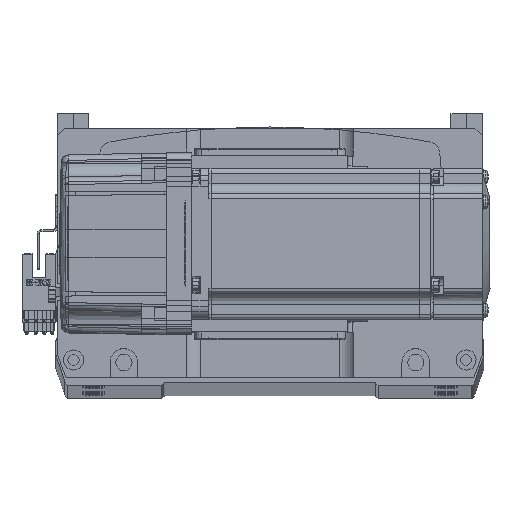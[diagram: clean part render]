
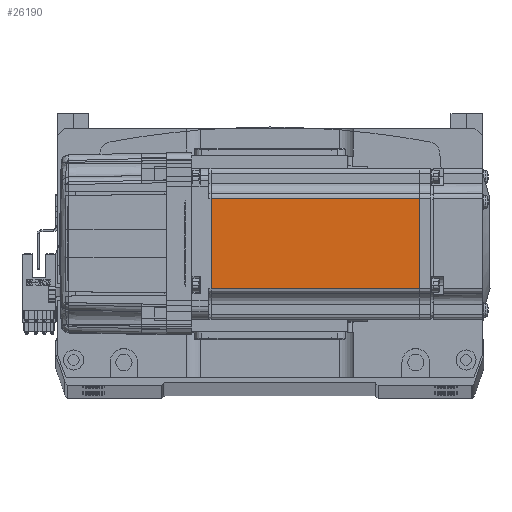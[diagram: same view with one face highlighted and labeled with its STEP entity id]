
A CAD part, top view. The second image highlights one B-rep face of the part: STEP entity #26190.
In plain terms, the highlighted planar face has unit normal (0, 0, 1) as drawn and (0, -1, 0) by its records, which use the part's own axes.
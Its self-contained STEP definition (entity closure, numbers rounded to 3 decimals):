
#3116 = VERTEX_POINT ( 'NONE', #69018 ) ;
#3796 = PLANE ( 'NONE',  #66479 ) ;
#3926 = VECTOR ( 'NONE', #60399, 1000. ) ;
#3994 = VERTEX_POINT ( 'NONE', #27102 ) ;
#5474 = LINE ( 'NONE', #55560, #65385 ) ;
#6067 = LINE ( 'NONE', #30872, #7747 ) ;
#7747 = VECTOR ( 'NONE', #63281, 1000. ) ;
#9258 = DIRECTION ( 'NONE',  ( 0., -1., 0. ) ) ;
#10162 = EDGE_CURVE ( 'NONE', #3116, #35874, #46666, .T. ) ;
#10187 = EDGE_LOOP ( 'NONE', ( #20826, #17957, #20166, #43602 ) ) ;
#10746 = CARTESIAN_POINT ( 'NONE',  ( -90.45, -30., 18. ) ) ;
#17957 = ORIENTED_EDGE ( 'NONE', *, *, #10162, .T. ) ;
#19496 = FACE_OUTER_BOUND ( 'NONE', #10187, .T. ) ;
#20166 = ORIENTED_EDGE ( 'NONE', *, *, #30792, .T. ) ;
#20826 = ORIENTED_EDGE ( 'NONE', *, *, #49884, .T. ) ;
#24948 = EDGE_CURVE ( 'NONE', #3994, #38036, #6067, .T. ) ;
#26190 = ADVANCED_FACE ( 'NONE', ( #19496 ), #3796, .T. ) ;
#27102 = CARTESIAN_POINT ( 'NONE',  ( -90.45, -30., -18. ) ) ;
#30792 = EDGE_CURVE ( 'NONE', #35874, #3994, #5474, .T. ) ;
#30872 = CARTESIAN_POINT ( 'NONE',  ( -6.5, -30., -18. ) ) ;
#35874 = VERTEX_POINT ( 'NONE', #10746 ) ;
#38036 = VERTEX_POINT ( 'NONE', #39133 ) ;
#39133 = CARTESIAN_POINT ( 'NONE',  ( -7.75, -30., -18. ) ) ;
#42233 = CARTESIAN_POINT ( 'NONE',  ( -6.5, -30., -25. ) ) ;
#42907 = DIRECTION ( 'NONE',  ( 0., 0., 1. ) ) ;
#43602 = ORIENTED_EDGE ( 'NONE', *, *, #24948, .T. ) ;
#45234 = DIRECTION ( 'NONE',  ( 0., 0., -1. ) ) ;
#46666 = LINE ( 'NONE', #48915, #3926 ) ;
#48915 = CARTESIAN_POINT ( 'NONE',  ( -6.5, -30., 18. ) ) ;
#49884 = EDGE_CURVE ( 'NONE', #38036, #3116, #56263, .T. ) ;
#51113 = VECTOR ( 'NONE', #42907, 1000. ) ;
#55560 = CARTESIAN_POINT ( 'NONE',  ( -90.45, -30., -25. ) ) ;
#56263 = LINE ( 'NONE', #70236, #51113 ) ;
#58563 = DIRECTION ( 'NONE',  ( 0., 0., -1. ) ) ;
#60399 = DIRECTION ( 'NONE',  ( -1., 0., 0. ) ) ;
#63281 = DIRECTION ( 'NONE',  ( 1., 0., 0. ) ) ;
#65385 = VECTOR ( 'NONE', #45234, 1000. ) ;
#66479 = AXIS2_PLACEMENT_3D ( 'NONE', #42233, #9258, #58563 ) ;
#69018 = CARTESIAN_POINT ( 'NONE',  ( -7.75, -30., 18. ) ) ;
#70236 = CARTESIAN_POINT ( 'NONE',  ( -7.75, -30., -25. ) ) ;
